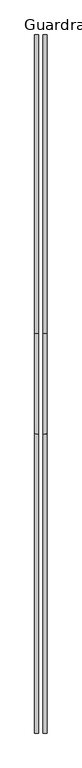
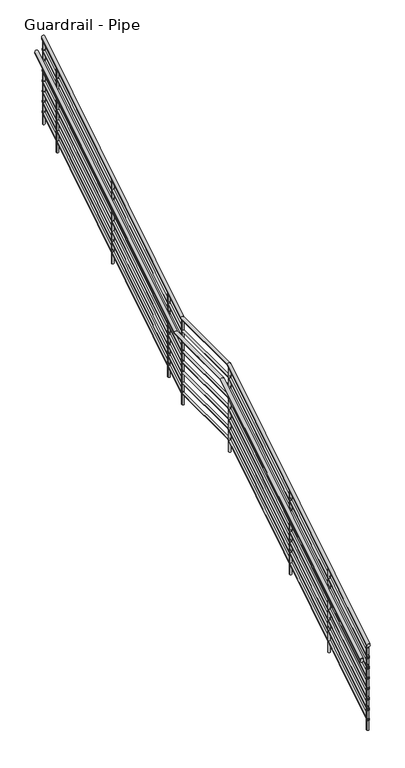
"""IFC4 building model written with IfcOpenShell, lengths in millimetres: railing geometry, Guardrail - Pipe."""

import ifcopenshell
import ifcopenshell.guid

model = None  # the IFC model being written
_history = None  # IfcOwnerHistory: only IFC2X3 demands one
_inside = {}  # id of a spatial element -> (the spatial element, [elements in it])
_under = {}  # id of a project, library or spatial element -> (it, [spatial elements below it])
_declared = {}  # id of a project -> (the project, [libraries it declares])
_typed = {}  # id of a type object -> (the type object, [elements of that type])
_made_of = {}  # id of a material, layer set ... -> (it, [elements and type objects made of it])


def new_model(schema):
    """Start an empty IFC model of exactly this schema.

    Asked for "IFC4X3", IfcOpenShell would pick the latest addendum, in which some entities
    have other attributes; the version numbers below select the first issue.
    IFC2X3 requires an IfcOwnerHistory on every rooted entity: one is made here for all.
    """
    global model, _history
    if schema == "IFC4X3":
        model = ifcopenshell.file(schema_version=(4, 3, 0, 0))
    else:
        model = ifcopenshell.file(schema=schema)
    _inside.clear()
    _under.clear()
    _declared.clear()
    _typed.clear()
    _made_of.clear()
    _history = None
    if model.schema == "IFC2X3":
        org = make("IfcOrganization", Name="unknown")
        user = make(
            "IfcPersonAndOrganization",
            ThePerson=make("IfcPerson", FamilyName="unknown"),
            TheOrganization=org,
        )
        app = make(
            "IfcApplication",
            ApplicationDeveloper=org,
            Version="unknown",
            ApplicationFullName="unknown",
            ApplicationIdentifier="unknown",
        )
        _history = make(
            "IfcOwnerHistory",
            OwningUser=user,
            OwningApplication=app,
            ChangeAction="ADDED",
            CreationDate=0,
        )
    return model


def make(cls, **values):
    """One entity of the class cls with the attributes given. An attribute that is None is left unset."""
    return model.create_entity(
        cls, **{name: value for name, value in values.items() if value is not None}
    )


def rooted(cls, **values):
    """An entity with a GlobalId (a new one), such as an element, a storey or a relation."""
    return make(cls, GlobalId=ifcopenshell.guid.new(), OwnerHistory=_history, **values)


def si_unit(unit_type, name, prefix=None):
    """IfcSIUnit, for example si_unit("LENGTHUNIT", "METRE", prefix="MILLI")."""
    return make("IfcSIUnit", UnitType=unit_type, Prefix=prefix, Name=name)


def assignment(units):
    """IfcUnitAssignment: the units of a project."""
    return None if units is None else make("IfcUnitAssignment", Units=units)


def point(xyz):
    """IfcCartesianPoint."""
    return None if xyz is None else make("IfcCartesianPoint", Coordinates=xyz)


def direction(xyz):
    """IfcDirection."""
    return None if xyz is None else make("IfcDirection", DirectionRatios=xyz)


def frame(location, z_axis=None, x_axis=None):
    """IfcAxis2Placement3D, a coordinate frame: its origin and axes. An axis left out is left unset."""
    return make(
        "IfcAxis2Placement3D",
        Location=point(location),
        Axis=direction(z_axis),
        RefDirection=direction(x_axis),
    )


def frame_2d(location, x_axis=None):
    """IfcAxis2Placement2D, a coordinate frame in the plane: its origin and x axis."""
    return make(
        "IfcAxis2Placement2D", Location=point(location), RefDirection=direction(x_axis)
    )


def origin():
    """The frame at (0, 0, 0) with its axes left unset."""
    return frame((0.0, 0.0, 0.0))


def place(relative_to, where):
    """IfcLocalPlacement: puts the frame where relative to a parent placement (None: the world)."""
    return make(
        "IfcLocalPlacement", PlacementRelTo=relative_to, RelativePlacement=where
    )


def context(
    kind, dimensions, precision=None, world=None, true_north=None, identifier=None
):
    """IfcGeometricRepresentationContext, for example the 3D "Model" context."""
    return make(
        "IfcGeometricRepresentationContext",
        ContextIdentifier=identifier,
        ContextType=kind,
        CoordinateSpaceDimension=dimensions,
        Precision=precision,
        WorldCoordinateSystem=world,
        TrueNorth=true_north,
    )


def project(units=None, contexts=None):
    """IfcProject with its units and contexts."""
    return rooted(
        "IfcProject",
        Name="project",
        RepresentationContexts=contexts,
        UnitsInContext=assignment(units),
    )


def spatial(cls, under=None, at=None, **own):
    """A site, building, storey or space (cls), placed at a placement, below another one or the project."""
    s = rooted(cls, ObjectPlacement=at, **own)
    if under is not None:
        _under.setdefault(under.id(), (under, []))[1].append(s)
    return s


def circle_curve(where, radius):
    """IfcCircle in the frame where."""
    return make("IfcCircle", Position=where, Radius=radius)


def ellipse_curve(where, semi_axis1, semi_axis2):
    """IfcEllipse in the frame where."""
    return make(
        "IfcEllipse", Position=where, SemiAxis1=semi_axis1, SemiAxis2=semi_axis2
    )


def trimmed(basis, trim1, trim2, sense, master):
    """IfcTrimmedCurve: the piece of a basis curve between two trims."""
    return make(
        "IfcTrimmedCurve",
        BasisCurve=basis,
        Trim1=trim1,
        Trim2=trim2,
        SenseAgreement=sense,
        MasterRepresentation=master,
    )


def segment(curve, same_sense, transition):
    """IfcCompositeCurveSegment."""
    return make(
        "IfcCompositeCurveSegment",
        Transition=transition,
        SameSense=same_sense,
        ParentCurve=curve,
    )


def composite_curve(segments, self_intersect=None):
    """IfcCompositeCurve: segments joined end to end."""
    return make("IfcCompositeCurve", Segments=segments, SelfIntersect=self_intersect)


def outline(outer, holes=None, kind="AREA"):
    """IfcArbitraryClosedProfileDef: a profile drawn as a closed curve; with holes, ...WithVoids."""
    if holes is None:
        return make("IfcArbitraryClosedProfileDef", ProfileType=kind, OuterCurve=outer)
    return make(
        "IfcArbitraryProfileDefWithVoids",
        ProfileType=kind,
        OuterCurve=outer,
        InnerCurves=holes,
    )


def extrude(swept, where, along, depth):
    """IfcExtrudedAreaSolid: the profile swept, set in the frame where, extruded along a direction by depth."""
    return make(
        "IfcExtrudedAreaSolid",
        SweptArea=swept,
        Position=where,
        ExtrudedDirection=direction(along),
        Depth=depth,
    )


def shape(context_of_items, identifier, shape_type, items):
    """IfcShapeRepresentation: the items that make up one representation, for example the "Body"."""
    return make(
        "IfcShapeRepresentation",
        ContextOfItems=context_of_items,
        RepresentationIdentifier=identifier,
        RepresentationType=shape_type,
        Items=items,
    )


def source(mapping_origin, context_of_items, identifier, shape_type, items):
    """IfcRepresentationMap: a shape defined once, which mapped items show again and again."""
    return make(
        "IfcRepresentationMap",
        MappingOrigin=mapping_origin,
        MappedRepresentation=shape(context_of_items, identifier, shape_type, items),
    )


def transform(
    local_origin,
    x_axis=None,
    y_axis=None,
    z_axis=None,
    scale=None,
    scale2=None,
    scale3=None,
    uniform=True,
):
    """IfcCartesianTransformationOperator3D, or its non-uniform kind. x_axis, y_axis, z_axis: its Axis1, 2, 3."""
    if uniform:
        return make(
            "IfcCartesianTransformationOperator3D",
            Axis1=direction(x_axis),
            Axis2=direction(y_axis),
            LocalOrigin=point(local_origin),
            Scale=scale,
            Axis3=direction(z_axis),
        )
    return make(
        "IfcCartesianTransformationOperator3DnonUniform",
        Axis1=direction(x_axis),
        Axis2=direction(y_axis),
        LocalOrigin=point(local_origin),
        Scale=scale,
        Axis3=direction(z_axis),
        Scale2=scale2,
        Scale3=scale3,
    )


def mapped(mapping_source, mapping_target):
    """IfcMappedItem: shows the shape of a source again, moved by a transform."""
    return make(
        "IfcMappedItem", MappingSource=mapping_source, MappingTarget=mapping_target
    )


def made_of(thing, what):
    """Note that an element or type object is made of a material, layer set ...; save() writes the relation."""
    if what is not None:
        _made_of.setdefault(what.id(), (what, []))[1].append(thing)
    return thing


def element(
    cls,
    number,
    at=None,
    inside=None,
    cuts=None,
    type_object=None,
    material=None,
    context=None,
    identifier="Body",
    shape_type=None,
    held_by="IfcProductDefinitionShape",
    body=None,
    shapes=None,
    **own,
):
    """One element of the class cls, such as IfcWall. Its Tag is "e" and its number.

    at: its placement. inside: the storey or other place that contains it. cuts: it is an
    opening in that element (IfcRelVoidsElement). A single representation is given by context,
    identifier, shape_type and body (its items); several are given by shapes. held_by: the class
    of the entity that holds the representations. save() writes the other relations.
    """
    e = rooted(cls, Tag="e%d" % number, ObjectPlacement=at, **own)
    if body is not None:
        shapes = [shape(context, identifier, shape_type, body)]
    if shapes is not None:
        e.Representation = make(held_by, Representations=shapes)
    if inside is not None:
        _inside.setdefault(inside.id(), (inside, []))[1].append(e)
    if cuts is not None:
        rooted(
            "IfcRelVoidsElement", RelatingBuildingElement=cuts, RelatedOpeningElement=e
        )
    if type_object is not None:
        _typed.setdefault(type_object.id(), (type_object, []))[1].append(e)
    return made_of(e, material)


def aggregate(whole, parts):
    """IfcRelAggregates: a whole, such as a stair, and the parts it consists of."""
    return rooted("IfcRelAggregates", RelatingObject=whole, RelatedObjects=parts)


def save(model, path):
    """Write the relations noted so far, then the file.

    IfcRelAggregates (storeys below a building ...), IfcRelContainedInSpatialStructure (elements
    in a storey), IfcRelDefinesByType, IfcRelAssociatesMaterial and IfcRelDeclares: one each for
    every whole, place, type object, material and project.
    """
    for whole, parts in _under.values():
        aggregate(whole, parts)
    for where, things in _inside.values():
        rooted(
            "IfcRelContainedInSpatialStructure",
            RelatedElements=things,
            RelatingStructure=where,
        )
    for kind, things in _typed.values():
        rooted("IfcRelDefinesByType", RelatedObjects=things, RelatingType=kind)
    for what, things in _made_of.values():
        rooted("IfcRelAssociatesMaterial", RelatedObjects=things, RelatingMaterial=what)
    for by, libraries in _declared.values():
        rooted("IfcRelDeclares", RelatingContext=by, RelatedDefinitions=libraries)
    model.write(path)


def plane_surface(at):
    """IfcPlane: the flat surface through the origin of the frame at, square to its z axis."""
    return make("IfcPlane", Position=at)


def cylinder_surface(at, radius):
    """IfcCylindricalSurface: all points at the distance radius from the z axis of the frame at."""
    return make("IfcCylindricalSurface", Position=at, Radius=radius)


def advanced_brep(points, edges, surfaces, faces):
    """IfcAdvancedBrep: a solid bounded by faces that lie on surfaces and meet in shared edges.

    An edge is (start, end): straight between two places in points (the first is 0);
    or (start, end, curve); or (start, end, curve, False) where it runs against its curve.
    A face is (place in surfaces, loops), or (place, loops, False) where it looks against
    its surface's normal. A loop lists edges by number (the first is 1), with a minus sign
    where the edge is run from its end to its start. The first loop is the outer one.
    """
    corners = [point(p) for p in points]
    vertices = [make("IfcVertexPoint", VertexGeometry=c) for c in corners]
    made = []
    for start, end, *more in edges:
        made.append(
            make(
                "IfcEdgeCurve",
                EdgeStart=vertices[start],
                EdgeEnd=vertices[end],
                EdgeGeometry=more[0] if more else make("IfcPolyline", Points=[corners[start], corners[end]]),
                SameSense=more[1] if len(more) > 1 else True,
            )
        )
    hull = []
    for where, loops, *sense in faces:
        bounds = []
        for j, loop in enumerate(loops):
            ring = [make("IfcOrientedEdge", EdgeElement=made[abs(k) - 1], Orientation=k > 0) for k in loop]
            bounds.append(
                make(
                    "IfcFaceOuterBound" if j == 0 else "IfcFaceBound",
                    Bound=make("IfcEdgeLoop", EdgeList=ring),
                    Orientation=True,
                )
            )
        hull.append(make("IfcAdvancedFace", Bounds=bounds, FaceSurface=surfaces[where], SameSense=sense[0] if sense else True))
    return make("IfcAdvancedBrep", Outer=make("IfcClosedShell", CfsFaces=hull))


def guardrail_pipe_3cf99dae(model_context):
    return source(origin(), model_context, "Body", "SolidModel", [
        advanced_brep(
        [(-2773.0069983, -3668.290357, 1218.5231361), (-2811.1069983, -3668.290357, 1218.5231361), (-2773.0069983, -868.8389295, 2963.6357143), (-2811.1069983, -868.8389295, 2963.6357143), (-2773.0069983, 70.9610705, 2963.6357143), (-2811.1069983, 70.9610705, 2963.6357143), (-2773.0069983, 2859.509643, 4701.9517075), (-2811.1069983, 2859.509643, 4701.9517075)],
        [
            (0, 1, ellipse_curve(frame((-2792.0569983, -3668.290357, 1218.5231361), z_axis=(0.0, -1.0, 0.0), x_axis=(0.0, 0.0, -1.0)), 22.4482925, 19.05)),
            (1, 0, ellipse_curve(frame((-2792.0569983, -3668.290357, 1218.5231361), z_axis=(0.0, -1.0, 0.0), x_axis=(0.0, 0.0, -1.0)), 22.4482925, 19.05)),
            (0, 2),
            (2, 3, ellipse_curve(frame((-2792.0569983, -868.8389295, 2963.6357143), z_axis=(0.0, -0.9614096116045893, -0.2751209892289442), x_axis=(0.0, 0.27512098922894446, -0.9614096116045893)), 19.8146552, 19.05)),
            (3, 1),
            (3, 2, ellipse_curve(frame((-2792.0569983, -868.8389295, 2963.6357143), z_axis=(0.0, -0.9614096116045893, -0.2751209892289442), x_axis=(0.0, 0.27512098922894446, -0.9614096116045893)), 19.8146552, 19.05)),
            (2, 4),
            (4, 5, ellipse_curve(frame((-2792.0569983, 70.9610705, 2963.6357143), z_axis=(0.0, -0.9614096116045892, -0.2751209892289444), x_axis=(0.0, -0.2751209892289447, 0.9614096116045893)), 19.8146552, 19.05)),
            (5, 3),
            (5, 4, ellipse_curve(frame((-2792.0569983, 70.9610705, 2963.6357143), z_axis=(0.0, -0.9614096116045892, -0.2751209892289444), x_axis=(0.0, -0.2751209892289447, 0.9614096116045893)), 19.8146552, 19.05)),
            (6, 7, ellipse_curve(frame((-2792.0569983, 2859.509643, 4701.9517075), z_axis=(0.0, 1.0, 0.0), x_axis=(0.0, 0.0, -1.0)), 22.4482925, 19.05)),
            (7, 6, ellipse_curve(frame((-2792.0569983, 2859.509643, 4701.9517075), z_axis=(0.0, 1.0, 0.0), x_axis=(0.0, 0.0, -1.0)), 22.4482925, 19.05)),
            (4, 6),
            (7, 5),
        ],
        [
            plane_surface(frame((-2792.0569983, -3668.290357, 1240.9714286), z_axis=(0.0, -1.0, 0.0), x_axis=(0.0, 0.0, 1.0))),
            cylinder_surface(frame((-2792.0569983, -3658.212756, 1224.805277), z_axis=(0.0, -0.8486168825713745, -0.5290079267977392), x_axis=(-1.0, 0.0, 0.0)), 19.05),
            cylinder_surface(frame((-2792.0569983, -874.290357, 2963.6357143), z_axis=(0.0, -1.0, 0.0), x_axis=(-1.0, 0.0, 0.0)), 19.05),
            plane_surface(frame((-2792.0569983, 2859.509643, 4724.4), z_axis=(0.0, 1.0, 0.0), x_axis=(0.0, 0.0, 1.0))),
            cylinder_surface(frame((-2792.0569983, 75.587244, 2966.5195627), z_axis=(0.0, -0.8486168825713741, -0.5290079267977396), x_axis=(-1.0, 0.0, 0.0)), 19.05),
        ],
        [
            (0, [[1, 2]]),
            (1, [[-1, 3, 4, 5]]),
            (1, [[-2, -5, 6, -3]]),
            (2, [[-4, 7, 8, 9]]),
            (2, [[-6, -9, 10, -7]]),
            (3, [[11, 12]]),
            (4, [[-8, 13, -12, 14]]),
            (4, [[-10, -14, -11, -13]]),
        ],
    ),
        advanced_brep(
        [(-2779.3569983, -3668.290357, 1073.6059002), (-2804.7569983, -3668.290357, 1073.6059002), (-2779.3569983, -870.656072, 2817.5857143), (-2804.7569983, -870.656072, 2817.5857143), (-2779.3569983, 69.143928, 2817.5857143), (-2804.7569983, 69.143928, 2817.5857143), (-2779.3569983, 2859.509643, 4557.0344717), (-2804.7569983, 2859.509643, 4557.0344717)],
        [
            (0, 1, ellipse_curve(frame((-2792.0569983, -3668.290357, 1073.6059002), z_axis=(0.0, -1.0, 0.0), x_axis=(0.0, 0.0, -1.0)), 14.9655283, 12.7)),
            (1, 0, ellipse_curve(frame((-2792.0569983, -3668.290357, 1073.6059002), z_axis=(0.0, -1.0, 0.0), x_axis=(0.0, 0.0, -1.0)), 14.9655283, 12.7)),
            (0, 2),
            (2, 3, ellipse_curve(frame((-2792.0569983, -870.656072, 2817.5857143), z_axis=(0.0, -0.9614096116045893, -0.2751209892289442), x_axis=(0.0, 0.27512098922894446, -0.9614096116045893)), 13.2097702, 12.7)),
            (3, 1),
            (3, 2, ellipse_curve(frame((-2792.0569983, -870.656072, 2817.5857143), z_axis=(0.0, -0.9614096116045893, -0.2751209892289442), x_axis=(0.0, 0.27512098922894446, -0.9614096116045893)), 13.2097702, 12.7)),
            (2, 4),
            (4, 5, ellipse_curve(frame((-2792.0569983, 69.143928, 2817.5857143), z_axis=(0.0, -0.9614096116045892, -0.2751209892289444), x_axis=(0.0, -0.2751209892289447, 0.9614096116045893)), 13.2097702, 12.7)),
            (5, 3),
            (5, 4, ellipse_curve(frame((-2792.0569983, 69.143928, 2817.5857143), z_axis=(0.0, -0.9614096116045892, -0.2751209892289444), x_axis=(0.0, -0.2751209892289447, 0.9614096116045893)), 13.2097702, 12.7)),
            (6, 7, ellipse_curve(frame((-2792.0569983, 2859.509643, 4557.0344717), z_axis=(0.0, 1.0, 0.0), x_axis=(0.0, 0.0, -1.0)), 14.9655283, 12.7)),
            (7, 6, ellipse_curve(frame((-2792.0569983, 2859.509643, 4557.0344717), z_axis=(0.0, 1.0, 0.0), x_axis=(0.0, 0.0, -1.0)), 14.9655283, 12.7)),
            (4, 6),
            (7, 5),
        ],
        [
            plane_surface(frame((-2792.0569983, -3668.290357, 1088.5714286), z_axis=(0.0, -1.0, 0.0), x_axis=(0.0, 0.0, 1.0))),
            cylinder_surface(frame((-2792.0569983, -3661.5719564, 1077.7939942), z_axis=(0.0, -0.8486168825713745, -0.5290079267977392), x_axis=(-1.0, 0.0, 0.0)), 12.7),
            cylinder_surface(frame((-2792.0569983, -874.290357, 2817.5857143), z_axis=(0.0, -1.0, 0.0), x_axis=(-1.0, 0.0, 0.0)), 12.7),
            plane_surface(frame((-2792.0569983, 2859.509643, 4572.0), z_axis=(0.0, 1.0, 0.0), x_axis=(0.0, 0.0, 1.0))),
            cylinder_surface(frame((-2792.0569983, 72.2280436, 2819.5082799), z_axis=(0.0, -0.8486168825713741, -0.5290079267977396), x_axis=(-1.0, 0.0, 0.0)), 12.7),
        ],
        [
            (0, [[1, 2]]),
            (1, [[-1, 3, 4, 5]]),
            (1, [[-2, -5, 6, -3]]),
            (2, [[-4, 7, 8, 9]]),
            (2, [[-6, -9, 10, -7]]),
            (3, [[11, 12]]),
            (4, [[-8, 13, -12, 14]]),
            (4, [[-10, -14, -11, -13]]),
        ],
    ),
        advanced_brep(
        [(-2849.2069983, -3668.290357, 1066.1231361), (-2887.3069983, -3668.290357, 1066.1231361), (-2849.2069983, -868.8389295, 2811.2357143), (-2887.3069983, -868.8389295, 2811.2357143), (-2849.2069983, 70.9610705, 2811.2357143), (-2887.3069983, 70.9610705, 2811.2357143), (-2849.2069983, 2859.509643, 4549.5517075), (-2887.3069983, 2859.509643, 4549.5517075)],
        [
            (0, 1, ellipse_curve(frame((-2868.2569983, -3668.290357, 1066.1231361), z_axis=(0.0, -1.0, 0.0), x_axis=(0.0, 0.0, -1.0)), 22.4482925, 19.05)),
            (1, 0, ellipse_curve(frame((-2868.2569983, -3668.290357, 1066.1231361), z_axis=(0.0, -1.0, 0.0), x_axis=(0.0, 0.0, -1.0)), 22.4482925, 19.05)),
            (0, 2),
            (2, 3, ellipse_curve(frame((-2868.2569983, -868.8389295, 2811.2357143), z_axis=(0.0, -0.9614096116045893, -0.2751209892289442), x_axis=(0.0, 0.27512098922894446, -0.9614096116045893)), 19.8146552, 19.05)),
            (3, 1),
            (3, 2, ellipse_curve(frame((-2868.2569983, -868.8389295, 2811.2357143), z_axis=(0.0, -0.9614096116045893, -0.2751209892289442), x_axis=(0.0, 0.27512098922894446, -0.9614096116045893)), 19.8146552, 19.05)),
            (2, 4),
            (4, 5, ellipse_curve(frame((-2868.2569983, 70.9610705, 2811.2357143), z_axis=(0.0, -0.9614096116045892, -0.2751209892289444), x_axis=(0.0, -0.2751209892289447, 0.9614096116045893)), 19.8146552, 19.05)),
            (5, 3),
            (5, 4, ellipse_curve(frame((-2868.2569983, 70.9610705, 2811.2357143), z_axis=(0.0, -0.9614096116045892, -0.2751209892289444), x_axis=(0.0, -0.2751209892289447, 0.9614096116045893)), 19.8146552, 19.05)),
            (6, 7, ellipse_curve(frame((-2868.2569983, 2859.509643, 4549.5517075), z_axis=(0.0, 1.0, 0.0), x_axis=(0.0, 0.0, -1.0)), 22.4482925, 19.05)),
            (7, 6, ellipse_curve(frame((-2868.2569983, 2859.509643, 4549.5517075), z_axis=(0.0, 1.0, 0.0), x_axis=(0.0, 0.0, -1.0)), 22.4482925, 19.05)),
            (4, 6),
            (7, 5),
        ],
        [
            plane_surface(frame((-2868.2569983, -3668.290357, 1088.5714286), z_axis=(0.0, -1.0, 0.0), x_axis=(0.0, 0.0, 1.0))),
            cylinder_surface(frame((-2868.2569983, -3658.212756, 1072.405277), z_axis=(0.0, -0.8486168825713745, -0.5290079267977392), x_axis=(-1.0, 0.0, 0.0)), 19.05),
            cylinder_surface(frame((-2868.2569983, -874.290357, 2811.2357143), z_axis=(0.0, -1.0, 0.0), x_axis=(-1.0, 0.0, 0.0)), 19.05),
            plane_surface(frame((-2868.2569983, 2859.509643, 4572.0), z_axis=(0.0, 1.0, 0.0), x_axis=(0.0, 0.0, 1.0))),
            cylinder_surface(frame((-2868.2569983, 75.587244, 2814.1195627), z_axis=(0.0, -0.8486168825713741, -0.5290079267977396), x_axis=(-1.0, 0.0, 0.0)), 19.05),
        ],
        [
            (0, [[1, 2]]),
            (1, [[-1, 3, 4, 5]]),
            (1, [[-2, -5, 6, -3]]),
            (2, [[-4, 7, 8, 9]]),
            (2, [[-6, -9, 10, -7]]),
            (3, [[11, 12]]),
            (4, [[-8, 13, -12, 14]]),
            (4, [[-10, -14, -11, -13]]),
        ],
    ),
        advanced_brep(
        [(-2779.3569983, -3668.290357, 946.6059002), (-2804.7569983, -3668.290357, 946.6059002), (-2779.3569983, -870.656072, 2690.5857143), (-2804.7569983, -870.656072, 2690.5857143), (-2779.3569983, 69.143928, 2690.5857143), (-2804.7569983, 69.143928, 2690.5857143), (-2779.3569983, 2859.509643, 4430.0344717), (-2804.7569983, 2859.509643, 4430.0344717)],
        [
            (0, 1, ellipse_curve(frame((-2792.0569983, -3668.290357, 946.6059002), z_axis=(0.0, -1.0, 0.0), x_axis=(0.0, 0.0, -1.0)), 14.9655283, 12.7)),
            (1, 0, ellipse_curve(frame((-2792.0569983, -3668.290357, 946.6059002), z_axis=(0.0, -1.0, 0.0), x_axis=(0.0, 0.0, -1.0)), 14.9655283, 12.7)),
            (0, 2),
            (2, 3, ellipse_curve(frame((-2792.0569983, -870.656072, 2690.5857143), z_axis=(0.0, -0.9614096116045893, -0.2751209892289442), x_axis=(0.0, 0.27512098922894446, -0.9614096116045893)), 13.2097702, 12.7)),
            (3, 1),
            (3, 2, ellipse_curve(frame((-2792.0569983, -870.656072, 2690.5857143), z_axis=(0.0, -0.9614096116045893, -0.2751209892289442), x_axis=(0.0, 0.27512098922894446, -0.9614096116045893)), 13.2097702, 12.7)),
            (2, 4),
            (4, 5, ellipse_curve(frame((-2792.0569983, 69.143928, 2690.5857143), z_axis=(0.0, -0.9614096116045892, -0.2751209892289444), x_axis=(0.0, -0.2751209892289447, 0.9614096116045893)), 13.2097702, 12.7)),
            (5, 3),
            (5, 4, ellipse_curve(frame((-2792.0569983, 69.143928, 2690.5857143), z_axis=(0.0, -0.9614096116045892, -0.2751209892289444), x_axis=(0.0, -0.2751209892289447, 0.9614096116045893)), 13.2097702, 12.7)),
            (6, 7, ellipse_curve(frame((-2792.0569983, 2859.509643, 4430.0344717), z_axis=(0.0, 1.0, 0.0), x_axis=(0.0, 0.0, -1.0)), 14.9655283, 12.7)),
            (7, 6, ellipse_curve(frame((-2792.0569983, 2859.509643, 4430.0344717), z_axis=(0.0, 1.0, 0.0), x_axis=(0.0, 0.0, -1.0)), 14.9655283, 12.7)),
            (4, 6),
            (7, 5),
        ],
        [
            plane_surface(frame((-2792.0569983, -3668.290357, 961.5714286), z_axis=(0.0, -1.0, 0.0), x_axis=(0.0, 0.0, 1.0))),
            cylinder_surface(frame((-2792.0569983, -3661.5719564, 950.7939942), z_axis=(0.0, -0.8486168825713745, -0.5290079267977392), x_axis=(-1.0, 0.0, 0.0)), 12.7),
            cylinder_surface(frame((-2792.0569983, -874.290357, 2690.5857143), z_axis=(0.0, -1.0, 0.0), x_axis=(-1.0, 0.0, 0.0)), 12.7),
            plane_surface(frame((-2792.0569983, 2859.509643, 4445.0), z_axis=(0.0, 1.0, 0.0), x_axis=(0.0, 0.0, 1.0))),
            cylinder_surface(frame((-2792.0569983, 72.2280436, 2692.5082799), z_axis=(0.0, -0.8486168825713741, -0.5290079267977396), x_axis=(-1.0, 0.0, 0.0)), 12.7),
        ],
        [
            (0, [[1, 2]]),
            (1, [[-1, 3, 4, 5]]),
            (1, [[-2, -5, 6, -3]]),
            (2, [[-4, 7, 8, 9]]),
            (2, [[-6, -9, 10, -7]]),
            (3, [[11, 12]]),
            (4, [[-8, 13, -12, 14]]),
            (4, [[-10, -14, -11, -13]]),
        ],
    ),
        advanced_brep(
        [(-2779.3569983, -3668.290357, 819.6059002), (-2804.7569983, -3668.290357, 819.6059002), (-2779.3569983, -870.656072, 2563.5857143), (-2804.7569983, -870.656072, 2563.5857143), (-2779.3569983, 69.143928, 2563.5857143), (-2804.7569983, 69.143928, 2563.5857143), (-2779.3569983, 2859.509643, 4303.0344717), (-2804.7569983, 2859.509643, 4303.0344717)],
        [
            (0, 1, ellipse_curve(frame((-2792.0569983, -3668.290357, 819.6059002), z_axis=(0.0, -1.0, 0.0), x_axis=(0.0, 0.0, -1.0)), 14.9655283, 12.7)),
            (1, 0, ellipse_curve(frame((-2792.0569983, -3668.290357, 819.6059002), z_axis=(0.0, -1.0, 0.0), x_axis=(0.0, 0.0, -1.0)), 14.9655283, 12.7)),
            (0, 2),
            (2, 3, ellipse_curve(frame((-2792.0569983, -870.656072, 2563.5857143), z_axis=(0.0, -0.9614096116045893, -0.2751209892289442), x_axis=(0.0, 0.27512098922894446, -0.9614096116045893)), 13.2097702, 12.7)),
            (3, 1),
            (3, 2, ellipse_curve(frame((-2792.0569983, -870.656072, 2563.5857143), z_axis=(0.0, -0.9614096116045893, -0.2751209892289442), x_axis=(0.0, 0.27512098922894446, -0.9614096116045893)), 13.2097702, 12.7)),
            (2, 4),
            (4, 5, ellipse_curve(frame((-2792.0569983, 69.143928, 2563.5857143), z_axis=(0.0, -0.9614096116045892, -0.2751209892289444), x_axis=(0.0, -0.2751209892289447, 0.9614096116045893)), 13.2097702, 12.7)),
            (5, 3),
            (5, 4, ellipse_curve(frame((-2792.0569983, 69.143928, 2563.5857143), z_axis=(0.0, -0.9614096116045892, -0.2751209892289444), x_axis=(0.0, -0.2751209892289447, 0.9614096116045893)), 13.2097702, 12.7)),
            (6, 7, ellipse_curve(frame((-2792.0569983, 2859.509643, 4303.0344717), z_axis=(0.0, 1.0, 0.0), x_axis=(0.0, 0.0, -1.0)), 14.9655283, 12.7)),
            (7, 6, ellipse_curve(frame((-2792.0569983, 2859.509643, 4303.0344717), z_axis=(0.0, 1.0, 0.0), x_axis=(0.0, 0.0, -1.0)), 14.9655283, 12.7)),
            (4, 6),
            (7, 5),
        ],
        [
            plane_surface(frame((-2792.0569983, -3668.290357, 834.5714286), z_axis=(0.0, -1.0, 0.0), x_axis=(0.0, 0.0, 1.0))),
            cylinder_surface(frame((-2792.0569983, -3661.5719564, 823.7939942), z_axis=(0.0, -0.8486168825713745, -0.5290079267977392), x_axis=(-1.0, 0.0, 0.0)), 12.7),
            cylinder_surface(frame((-2792.0569983, -874.290357, 2563.5857143), z_axis=(0.0, -1.0, 0.0), x_axis=(-1.0, 0.0, 0.0)), 12.7),
            plane_surface(frame((-2792.0569983, 2859.509643, 4318.0), z_axis=(0.0, 1.0, 0.0), x_axis=(0.0, 0.0, 1.0))),
            cylinder_surface(frame((-2792.0569983, 72.2280436, 2565.5082799), z_axis=(0.0, -0.8486168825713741, -0.5290079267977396), x_axis=(-1.0, 0.0, 0.0)), 12.7),
        ],
        [
            (0, [[1, 2]]),
            (1, [[-1, 3, 4, 5]]),
            (1, [[-2, -5, 6, -3]]),
            (2, [[-4, 7, 8, 9]]),
            (2, [[-6, -9, 10, -7]]),
            (3, [[11, 12]]),
            (4, [[-8, 13, -12, 14]]),
            (4, [[-10, -14, -11, -13]]),
        ],
    ),
        advanced_brep(
        [(-2779.3569983, -3668.290357, 692.6059002), (-2804.7569983, -3668.290357, 692.6059002), (-2779.3569983, -870.656072, 2436.5857143), (-2804.7569983, -870.656072, 2436.5857143), (-2779.3569983, 69.143928, 2436.5857143), (-2804.7569983, 69.143928, 2436.5857143), (-2779.3569983, 2859.509643, 4176.0344717), (-2804.7569983, 2859.509643, 4176.0344717)],
        [
            (0, 1, ellipse_curve(frame((-2792.0569983, -3668.290357, 692.6059002), z_axis=(0.0, -1.0, 0.0), x_axis=(0.0, 0.0, -1.0)), 14.9655283, 12.7)),
            (1, 0, ellipse_curve(frame((-2792.0569983, -3668.290357, 692.6059002), z_axis=(0.0, -1.0, 0.0), x_axis=(0.0, 0.0, -1.0)), 14.9655283, 12.7)),
            (0, 2),
            (2, 3, ellipse_curve(frame((-2792.0569983, -870.656072, 2436.5857143), z_axis=(0.0, -0.9614096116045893, -0.2751209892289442), x_axis=(0.0, 0.27512098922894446, -0.9614096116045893)), 13.2097702, 12.7)),
            (3, 1),
            (3, 2, ellipse_curve(frame((-2792.0569983, -870.656072, 2436.5857143), z_axis=(0.0, -0.9614096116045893, -0.2751209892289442), x_axis=(0.0, 0.27512098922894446, -0.9614096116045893)), 13.2097702, 12.7)),
            (2, 4),
            (4, 5, ellipse_curve(frame((-2792.0569983, 69.143928, 2436.5857143), z_axis=(0.0, -0.9614096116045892, -0.2751209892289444), x_axis=(0.0, -0.2751209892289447, 0.9614096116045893)), 13.2097702, 12.7)),
            (5, 3),
            (5, 4, ellipse_curve(frame((-2792.0569983, 69.143928, 2436.5857143), z_axis=(0.0, -0.9614096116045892, -0.2751209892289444), x_axis=(0.0, -0.2751209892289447, 0.9614096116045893)), 13.2097702, 12.7)),
            (6, 7, ellipse_curve(frame((-2792.0569983, 2859.509643, 4176.0344717), z_axis=(0.0, 1.0, 0.0), x_axis=(0.0, 0.0, -1.0)), 14.9655283, 12.7)),
            (7, 6, ellipse_curve(frame((-2792.0569983, 2859.509643, 4176.0344717), z_axis=(0.0, 1.0, 0.0), x_axis=(0.0, 0.0, -1.0)), 14.9655283, 12.7)),
            (4, 6),
            (7, 5),
        ],
        [
            plane_surface(frame((-2792.0569983, -3668.290357, 707.5714286), z_axis=(0.0, -1.0, 0.0), x_axis=(0.0, 0.0, 1.0))),
            cylinder_surface(frame((-2792.0569983, -3661.5719564, 696.7939942), z_axis=(0.0, -0.8486168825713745, -0.5290079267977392), x_axis=(-1.0, 0.0, 0.0)), 12.7),
            cylinder_surface(frame((-2792.0569983, -874.290357, 2436.5857143), z_axis=(0.0, -1.0, 0.0), x_axis=(-1.0, 0.0, 0.0)), 12.7),
            plane_surface(frame((-2792.0569983, 2859.509643, 4191.0), z_axis=(0.0, 1.0, 0.0), x_axis=(0.0, 0.0, 1.0))),
            cylinder_surface(frame((-2792.0569983, 72.2280436, 2438.5082799), z_axis=(0.0, -0.8486168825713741, -0.5290079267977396), x_axis=(-1.0, 0.0, 0.0)), 12.7),
        ],
        [
            (0, [[1, 2]]),
            (1, [[-1, 3, 4, 5]]),
            (1, [[-2, -5, 6, -3]]),
            (2, [[-4, 7, 8, 9]]),
            (2, [[-6, -9, 10, -7]]),
            (3, [[11, 12]]),
            (4, [[-8, 13, -12, 14]]),
            (4, [[-10, -14, -11, -13]]),
        ],
    ),
        advanced_brep(
        [(-2779.3569983, -3668.290357, 565.6059002), (-2804.7569983, -3668.290357, 565.6059002), (-2779.3569983, -870.656072, 2309.5857143), (-2804.7569983, -870.656072, 2309.5857143), (-2779.3569983, 69.143928, 2309.5857143), (-2804.7569983, 69.143928, 2309.5857143), (-2779.3569983, 2859.509643, 4049.0344717), (-2804.7569983, 2859.509643, 4049.0344717)],
        [
            (0, 1, ellipse_curve(frame((-2792.0569983, -3668.290357, 565.6059002), z_axis=(0.0, -1.0, 0.0), x_axis=(0.0, 0.0, -1.0)), 14.9655283, 12.7)),
            (1, 0, ellipse_curve(frame((-2792.0569983, -3668.290357, 565.6059002), z_axis=(0.0, -1.0, 0.0), x_axis=(0.0, 0.0, -1.0)), 14.9655283, 12.7)),
            (0, 2),
            (2, 3, ellipse_curve(frame((-2792.0569983, -870.656072, 2309.5857143), z_axis=(0.0, -0.9614096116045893, -0.2751209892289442), x_axis=(0.0, 0.27512098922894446, -0.9614096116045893)), 13.2097702, 12.7)),
            (3, 1),
            (3, 2, ellipse_curve(frame((-2792.0569983, -870.656072, 2309.5857143), z_axis=(0.0, -0.9614096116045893, -0.2751209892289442), x_axis=(0.0, 0.27512098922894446, -0.9614096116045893)), 13.2097702, 12.7)),
            (2, 4),
            (4, 5, ellipse_curve(frame((-2792.0569983, 69.143928, 2309.5857143), z_axis=(0.0, -0.9614096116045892, -0.2751209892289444), x_axis=(0.0, -0.2751209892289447, 0.9614096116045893)), 13.2097702, 12.7)),
            (5, 3),
            (5, 4, ellipse_curve(frame((-2792.0569983, 69.143928, 2309.5857143), z_axis=(0.0, -0.9614096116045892, -0.2751209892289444), x_axis=(0.0, -0.2751209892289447, 0.9614096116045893)), 13.2097702, 12.7)),
            (6, 7, ellipse_curve(frame((-2792.0569983, 2859.509643, 4049.0344717), z_axis=(0.0, 1.0, 0.0), x_axis=(0.0, 0.0, -1.0)), 14.9655283, 12.7)),
            (7, 6, ellipse_curve(frame((-2792.0569983, 2859.509643, 4049.0344717), z_axis=(0.0, 1.0, 0.0), x_axis=(0.0, 0.0, -1.0)), 14.9655283, 12.7)),
            (4, 6),
            (7, 5),
        ],
        [
            plane_surface(frame((-2792.0569983, -3668.290357, 580.5714286), z_axis=(0.0, -1.0, 0.0), x_axis=(0.0, 0.0, 1.0))),
            cylinder_surface(frame((-2792.0569983, -3661.5719564, 569.7939942), z_axis=(0.0, -0.8486168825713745, -0.5290079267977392), x_axis=(-1.0, 0.0, 0.0)), 12.7),
            cylinder_surface(frame((-2792.0569983, -874.290357, 2309.5857143), z_axis=(0.0, -1.0, 0.0), x_axis=(-1.0, 0.0, 0.0)), 12.7),
            plane_surface(frame((-2792.0569983, 2859.509643, 4064.0), z_axis=(0.0, 1.0, 0.0), x_axis=(0.0, 0.0, 1.0))),
            cylinder_surface(frame((-2792.0569983, 72.2280436, 2311.5082799), z_axis=(0.0, -0.8486168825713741, -0.5290079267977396), x_axis=(-1.0, 0.0, 0.0)), 12.7),
        ],
        [
            (0, [[1, 2]]),
            (1, [[-1, 3, 4, 5]]),
            (1, [[-2, -5, 6, -3]]),
            (2, [[-4, 7, 8, 9]]),
            (2, [[-6, -9, 10, -7]]),
            (3, [[11, 12]]),
            (4, [[-8, 13, -12, 14]]),
            (4, [[-10, -14, -11, -13]]),
        ],
    ),
        advanced_brep(
        [(-2779.3569983, -3668.290357, 438.6059002), (-2804.7569983, -3668.290357, 438.6059002), (-2779.3569983, -870.656072, 2182.5857143), (-2804.7569983, -870.656072, 2182.5857143), (-2779.3569983, 69.143928, 2182.5857143), (-2804.7569983, 69.143928, 2182.5857143), (-2779.3569983, 2859.509643, 3922.0344717), (-2804.7569983, 2859.509643, 3922.0344717)],
        [
            (0, 1, ellipse_curve(frame((-2792.0569983, -3668.290357, 438.6059002), z_axis=(0.0, -1.0, 0.0), x_axis=(0.0, 0.0, -1.0)), 14.9655283, 12.7)),
            (1, 0, ellipse_curve(frame((-2792.0569983, -3668.290357, 438.6059002), z_axis=(0.0, -1.0, 0.0), x_axis=(0.0, 0.0, -1.0)), 14.9655283, 12.7)),
            (0, 2),
            (2, 3, ellipse_curve(frame((-2792.0569983, -870.656072, 2182.5857143), z_axis=(0.0, -0.9614096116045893, -0.2751209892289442), x_axis=(0.0, 0.27512098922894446, -0.9614096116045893)), 13.2097702, 12.7)),
            (3, 1),
            (3, 2, ellipse_curve(frame((-2792.0569983, -870.656072, 2182.5857143), z_axis=(0.0, -0.9614096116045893, -0.2751209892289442), x_axis=(0.0, 0.27512098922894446, -0.9614096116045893)), 13.2097702, 12.7)),
            (2, 4),
            (4, 5, ellipse_curve(frame((-2792.0569983, 69.143928, 2182.5857143), z_axis=(0.0, -0.9614096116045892, -0.2751209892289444), x_axis=(0.0, -0.2751209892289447, 0.9614096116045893)), 13.2097702, 12.7)),
            (5, 3),
            (5, 4, ellipse_curve(frame((-2792.0569983, 69.143928, 2182.5857143), z_axis=(0.0, -0.9614096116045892, -0.2751209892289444), x_axis=(0.0, -0.2751209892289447, 0.9614096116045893)), 13.2097702, 12.7)),
            (6, 7, ellipse_curve(frame((-2792.0569983, 2859.509643, 3922.0344717), z_axis=(0.0, 1.0, 0.0), x_axis=(0.0, 0.0, -1.0)), 14.9655283, 12.7)),
            (7, 6, ellipse_curve(frame((-2792.0569983, 2859.509643, 3922.0344717), z_axis=(0.0, 1.0, 0.0), x_axis=(0.0, 0.0, -1.0)), 14.9655283, 12.7)),
            (4, 6),
            (7, 5),
        ],
        [
            plane_surface(frame((-2792.0569983, -3668.290357, 453.5714286), z_axis=(0.0, -1.0, 0.0), x_axis=(0.0, 0.0, 1.0))),
            cylinder_surface(frame((-2792.0569983, -3661.5719564, 442.7939942), z_axis=(0.0, -0.8486168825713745, -0.5290079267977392), x_axis=(-1.0, 0.0, 0.0)), 12.7),
            cylinder_surface(frame((-2792.0569983, -874.290357, 2182.5857143), z_axis=(0.0, -1.0, 0.0), x_axis=(-1.0, 0.0, 0.0)), 12.7),
            plane_surface(frame((-2792.0569983, 2859.509643, 3937.0), z_axis=(0.0, 1.0, 0.0), x_axis=(0.0, 0.0, 1.0))),
            cylinder_surface(frame((-2792.0569983, 72.2280436, 2184.5082799), z_axis=(0.0, -0.8486168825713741, -0.5290079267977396), x_axis=(-1.0, 0.0, 0.0)), 12.7),
        ],
        [
            (0, [[1, 2]]),
            (1, [[-1, 3, 4, 5]]),
            (1, [[-2, -5, 6, -3]]),
            (2, [[-4, 7, 8, 9]]),
            (2, [[-6, -9, 10, -7]]),
            (3, [[11, 12]]),
            (4, [[-8, 13, -12, 14]]),
            (4, [[-10, -14, -11, -13]]),
        ],
    ),
        advanced_brep(
        [(-2779.3569983, -3668.290357, 311.6059002), (-2804.7569983, -3668.290357, 311.6059002), (-2779.3569983, -870.656072, 2055.5857143), (-2804.7569983, -870.656072, 2055.5857143), (-2779.3569983, 69.143928, 2055.5857143), (-2804.7569983, 69.143928, 2055.5857143), (-2779.3569983, 2859.509643, 3795.0344717), (-2804.7569983, 2859.509643, 3795.0344717)],
        [
            (0, 1, ellipse_curve(frame((-2792.0569983, -3668.290357, 311.6059002), z_axis=(0.0, -1.0, 0.0), x_axis=(0.0, 0.0, -1.0)), 14.9655283, 12.7)),
            (1, 0, ellipse_curve(frame((-2792.0569983, -3668.290357, 311.6059002), z_axis=(0.0, -1.0, 0.0), x_axis=(0.0, 0.0, -1.0)), 14.9655283, 12.7)),
            (0, 2),
            (2, 3, ellipse_curve(frame((-2792.0569983, -870.656072, 2055.5857143), z_axis=(0.0, -0.9614096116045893, -0.2751209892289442), x_axis=(0.0, 0.27512098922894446, -0.9614096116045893)), 13.2097702, 12.7)),
            (3, 1),
            (3, 2, ellipse_curve(frame((-2792.0569983, -870.656072, 2055.5857143), z_axis=(0.0, -0.9614096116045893, -0.2751209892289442), x_axis=(0.0, 0.27512098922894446, -0.9614096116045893)), 13.2097702, 12.7)),
            (2, 4),
            (4, 5, ellipse_curve(frame((-2792.0569983, 69.143928, 2055.5857143), z_axis=(0.0, -0.9614096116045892, -0.2751209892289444), x_axis=(0.0, -0.2751209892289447, 0.9614096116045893)), 13.2097702, 12.7)),
            (5, 3),
            (5, 4, ellipse_curve(frame((-2792.0569983, 69.143928, 2055.5857143), z_axis=(0.0, -0.9614096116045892, -0.2751209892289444), x_axis=(0.0, -0.2751209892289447, 0.9614096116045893)), 13.2097702, 12.7)),
            (6, 7, ellipse_curve(frame((-2792.0569983, 2859.509643, 3795.0344717), z_axis=(0.0, 1.0, 0.0), x_axis=(0.0, 0.0, -1.0)), 14.9655283, 12.7)),
            (7, 6, ellipse_curve(frame((-2792.0569983, 2859.509643, 3795.0344717), z_axis=(0.0, 1.0, 0.0), x_axis=(0.0, 0.0, -1.0)), 14.9655283, 12.7)),
            (4, 6),
            (7, 5),
        ],
        [
            plane_surface(frame((-2792.0569983, -3668.290357, 326.5714286), z_axis=(0.0, -1.0, 0.0), x_axis=(0.0, 0.0, 1.0))),
            cylinder_surface(frame((-2792.0569983, -3661.5719564, 315.7939942), z_axis=(0.0, -0.8486168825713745, -0.5290079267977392), x_axis=(-1.0, 0.0, 0.0)), 12.7),
            cylinder_surface(frame((-2792.0569983, -874.290357, 2055.5857143), z_axis=(0.0, -1.0, 0.0), x_axis=(-1.0, 0.0, 0.0)), 12.7),
            plane_surface(frame((-2792.0569983, 2859.509643, 3810.0), z_axis=(0.0, 1.0, 0.0), x_axis=(0.0, 0.0, 1.0))),
            cylinder_surface(frame((-2792.0569983, 72.2280436, 2057.5082799), z_axis=(0.0, -0.8486168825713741, -0.5290079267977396), x_axis=(-1.0, 0.0, 0.0)), 12.7),
        ],
        [
            (0, [[1, 2]]),
            (1, [[-1, 3, 4, 5]]),
            (1, [[-2, -5, 6, -3]]),
            (2, [[-4, 7, 8, 9]]),
            (2, [[-6, -9, 10, -7]]),
            (3, [[11, 12]]),
            (4, [[-8, 13, -12, 14]]),
            (4, [[-10, -14, -11, -13]]),
        ],
    ),
        advanced_brep(
        [(-2779.3569983, 2847.1280585, 3649.8816097), (-2804.7569983, 2847.1280585, 3649.8816097), (-2804.7569983, 2847.1280585, 4671.7850247), (-2779.3569983, 2847.1280585, 4671.7850247)],
        [
            (0, 1, circle_curve(frame((-2792.0569983, 2847.1280585, 3649.8816097), z_axis=(0.0, 0.0, -1.0), x_axis=(-1.0, 0.0, 0.0)), 12.7)),
            (1, 0, circle_curve(frame((-2792.0569983, 2847.1280585, 3649.8816097), z_axis=(0.0, 0.0, -1.0), x_axis=(-1.0, 0.0, 0.0)), 12.7)),
            (1, 2),
            (2, 3, ellipse_curve(frame((-2792.0569983, 2847.1280585, 4671.7850247), z_axis=(0.0, 0.5290079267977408, -0.8486168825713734), x_axis=(0.0, 0.8486168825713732, 0.5290079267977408)), 14.9655283, 12.7)),
            (3, 0),
            (3, 2, ellipse_curve(frame((-2792.0569983, 2847.1280585, 4671.7850247), z_axis=(0.0, 0.5290079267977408, -0.8486168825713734), x_axis=(0.0, 0.8486168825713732, 0.5290079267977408)), 14.9655283, 12.7)),
        ],
        [
            plane_surface(frame((-2804.7569983, 2847.1280585, 3649.8816097), z_axis=(0.0, 0.0, -1.0), x_axis=(0.0, 1.0, 0.0))),
            cylinder_surface(frame((-2792.0569983, 2847.1280585, 3649.8816097), z_axis=(0.0, 0.0, 1.0), x_axis=(-1.0, 0.0, 0.0)), 12.7),
            plane_surface(frame((-2839.2828282, 2882.0530585, 4693.5564532), z_axis=(0.0, -0.5290079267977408, 0.8486168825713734), x_axis=(1.0, 0.0, 0.0))),
        ],
        [
            (0, [[1, 2]]),
            (1, [[-2, 3, 4, 5]]),
            (1, [[-1, -5, 6, -3]]),
            (2, [[-4, -6]]),
        ],
    ),
        advanced_brep(
        [(-2779.3569983, 2567.7280585, 3475.7101811), (-2804.7569983, 2567.7280585, 3475.7101811), (-2804.7569983, 2567.7280585, 4497.6135961), (-2779.3569983, 2567.7280585, 4497.6135961)],
        [
            (0, 1, circle_curve(frame((-2792.0569983, 2567.7280585, 3475.7101811), z_axis=(0.0, 0.0, -1.0), x_axis=(-1.0, 0.0, 0.0)), 12.7)),
            (1, 0, circle_curve(frame((-2792.0569983, 2567.7280585, 3475.7101811), z_axis=(0.0, 0.0, -1.0), x_axis=(-1.0, 0.0, 0.0)), 12.7)),
            (1, 2),
            (2, 3, ellipse_curve(frame((-2792.0569983, 2567.7280585, 4497.6135961), z_axis=(0.0, 0.5290079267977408, -0.8486168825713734), x_axis=(0.0, 0.8486168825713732, 0.5290079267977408)), 14.9655283, 12.7)),
            (3, 0),
            (3, 2, ellipse_curve(frame((-2792.0569983, 2567.7280585, 4497.6135961), z_axis=(0.0, 0.5290079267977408, -0.8486168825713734), x_axis=(0.0, 0.8486168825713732, 0.5290079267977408)), 14.9655283, 12.7)),
        ],
        [
            plane_surface(frame((-2804.7569983, 2567.7280585, 3475.7101811), z_axis=(0.0, 0.0, -1.0), x_axis=(0.0, 1.0, 0.0))),
            cylinder_surface(frame((-2792.0569983, 2567.7280585, 3475.7101811), z_axis=(0.0, 0.0, 1.0), x_axis=(-1.0, 0.0, 0.0)), 12.7),
            plane_surface(frame((-2839.2828282, 2602.6530585, 4519.3850247), z_axis=(0.0, -0.5290079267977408, 0.8486168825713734), x_axis=(1.0, 0.0, 0.0))),
        ],
        [
            (0, [[1, 2]]),
            (1, [[-2, 3, 4, 5]]),
            (1, [[-1, -5, 6, -3]]),
            (2, [[-4, -6]]),
        ],
    ),
        advanced_brep(
        [(-2779.3569983, 1462.509643, 2786.7428571), (-2804.7569983, 1462.509643, 2786.7428571), (-2804.7569983, 1462.509643, 3808.6462721), (-2779.3569983, 1462.509643, 3808.6462721)],
        [
            (0, 1, circle_curve(frame((-2792.0569983, 1462.509643, 2786.7428571), z_axis=(0.0, 0.0, -1.0), x_axis=(-1.0, 0.0, 0.0)), 12.7)),
            (1, 0, circle_curve(frame((-2792.0569983, 1462.509643, 2786.7428571), z_axis=(0.0, 0.0, -1.0), x_axis=(-1.0, 0.0, 0.0)), 12.7)),
            (1, 2),
            (2, 3, ellipse_curve(frame((-2792.0569983, 1462.509643, 3808.6462721), z_axis=(0.0, 0.5290079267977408, -0.8486168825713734), x_axis=(0.0, 0.8486168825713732, 0.5290079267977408)), 14.9655283, 12.7)),
            (3, 0),
            (3, 2, ellipse_curve(frame((-2792.0569983, 1462.509643, 3808.6462721), z_axis=(0.0, 0.5290079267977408, -0.8486168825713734), x_axis=(0.0, 0.8486168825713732, 0.5290079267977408)), 14.9655283, 12.7)),
        ],
        [
            plane_surface(frame((-2804.7569983, 1462.509643, 2786.7428571), z_axis=(0.0, 0.0, -1.0), x_axis=(0.0, 1.0, 0.0))),
            cylinder_surface(frame((-2792.0569983, 1462.509643, 2786.7428571), z_axis=(0.0, 0.0, 1.0), x_axis=(-1.0, 0.0, 0.0)), 12.7),
            plane_surface(frame((-2839.2828282, 1497.434643, 3830.4177007), z_axis=(0.0, -0.5290079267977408, 0.8486168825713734), x_axis=(1.0, 0.0, 0.0))),
        ],
        [
            (0, [[1, 2]]),
            (1, [[-2, 3, 4, 5]]),
            (1, [[-1, -5, 6, -3]]),
            (2, [[-4, -6]]),
        ],
    ),
        advanced_brep(
        [(-2779.3569983, 332.5280585, 2082.3387525), (-2804.7569983, 332.5280585, 2082.3387525), (-2804.7569983, 332.5280585, 3104.2421675), (-2779.3569983, 332.5280585, 3104.2421675)],
        [
            (0, 1, circle_curve(frame((-2792.0569983, 332.5280585, 2082.3387525), z_axis=(0.0, 0.0, -1.0), x_axis=(-1.0, 0.0, 0.0)), 12.7)),
            (1, 0, circle_curve(frame((-2792.0569983, 332.5280585, 2082.3387525), z_axis=(0.0, 0.0, -1.0), x_axis=(-1.0, 0.0, 0.0)), 12.7)),
            (1, 2),
            (2, 3, ellipse_curve(frame((-2792.0569983, 332.5280585, 3104.2421675), z_axis=(0.0, 0.5290079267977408, -0.8486168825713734), x_axis=(0.0, 0.8486168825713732, 0.5290079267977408)), 14.9655283, 12.7)),
            (3, 0),
            (3, 2, ellipse_curve(frame((-2792.0569983, 332.5280585, 3104.2421675), z_axis=(0.0, 0.5290079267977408, -0.8486168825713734), x_axis=(0.0, 0.8486168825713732, 0.5290079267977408)), 14.9655283, 12.7)),
        ],
        [
            plane_surface(frame((-2804.7569983, 332.5280585, 2082.3387525), z_axis=(0.0, 0.0, -1.0), x_axis=(0.0, 1.0, 0.0))),
            cylinder_surface(frame((-2792.0569983, 332.5280585, 2082.3387525), z_axis=(0.0, 0.0, 1.0), x_axis=(-1.0, 0.0, 0.0)), 12.7),
            plane_surface(frame((-2839.2828282, 367.4530585, 3126.0135961), z_axis=(0.0, -0.5290079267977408, 0.8486168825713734), x_axis=(1.0, 0.0, 0.0))),
        ],
        [
            (0, [[1, 2]]),
            (1, [[-2, 3, 4, 5]]),
            (1, [[-1, -5, 6, -3]]),
            (2, [[-4, -6]]),
        ],
    ),
        extrude(outline(composite_curve([segment(trimmed(circle_curve(frame_2d((-2792.0569983, 53.1280585)), 12.7), [point((-2779.3569983, 53.1280585))], [point((-2804.7569983, 53.1280585))], False, "CARTESIAN"), True, "CONTINUOUS"), segment(trimmed(circle_curve(frame_2d((-2792.0569983, 53.1280585)), 12.7), [point((-2804.7569983, 53.1280585))], [point((-2779.3569983, 53.1280585))], False, "CARTESIAN"), True, "CONTINUOUS")], self_intersect=False)), frame((0.0, 0.0, 1915.8857143), z_axis=(0.0, 0.0, 1.0), x_axis=(1.0, 0.0, 0.0)), (0.0, 0.0, 1.0), 1028.7),
        advanced_brep(
        [(-2779.3569983, -886.6719415, 1908.167324), (-2804.7569983, -886.6719415, 1908.167324), (-2804.7569983, -886.6719415, 2930.070739), (-2779.3569983, -886.6719415, 2930.070739)],
        [
            (0, 1, circle_curve(frame((-2792.0569983, -886.6719415, 1908.167324), z_axis=(0.0, 0.0, -1.0), x_axis=(-1.0, 0.0, 0.0)), 12.7)),
            (1, 0, circle_curve(frame((-2792.0569983, -886.6719415, 1908.167324), z_axis=(0.0, 0.0, -1.0), x_axis=(-1.0, 0.0, 0.0)), 12.7)),
            (1, 2),
            (2, 3, ellipse_curve(frame((-2792.0569983, -886.6719415, 2930.070739), z_axis=(0.0, 0.5290079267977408, -0.8486168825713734), x_axis=(0.0, 0.8486168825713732, 0.5290079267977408)), 14.9655283, 12.7)),
            (3, 0),
            (3, 2, ellipse_curve(frame((-2792.0569983, -886.6719415, 2930.070739), z_axis=(0.0, 0.5290079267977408, -0.8486168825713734), x_axis=(0.0, 0.8486168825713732, 0.5290079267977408)), 14.9655283, 12.7)),
        ],
        [
            plane_surface(frame((-2804.7569983, -886.6719415, 1908.167324), z_axis=(0.0, 0.0, -1.0), x_axis=(0.0, 1.0, 0.0))),
            cylinder_surface(frame((-2792.0569983, -886.6719415, 1908.167324), z_axis=(0.0, 0.0, 1.0), x_axis=(-1.0, 0.0, 0.0)), 12.7),
            plane_surface(frame((-2839.2828282, -851.7469415, 2951.8421675), z_axis=(0.0, -0.5290079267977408, 0.8486168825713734), x_axis=(1.0, 0.0, 0.0))),
        ],
        [
            (0, [[1, 2]]),
            (1, [[-2, 3, 4, 5]]),
            (1, [[-1, -5, 6, -3]]),
            (2, [[-4, -6]]),
        ],
    ),
        advanced_brep(
        [(-2779.3569983, -2105.8719415, 1148.1465447), (-2804.7569983, -2105.8719415, 1148.1465447), (-2804.7569983, -2105.8719415, 2170.0499597), (-2779.3569983, -2105.8719415, 2170.0499597)],
        [
            (0, 1, circle_curve(frame((-2792.0569983, -2105.8719415, 1148.1465447), z_axis=(0.0, 0.0, -1.0), x_axis=(-1.0, 0.0, 0.0)), 12.7)),
            (1, 0, circle_curve(frame((-2792.0569983, -2105.8719415, 1148.1465447), z_axis=(0.0, 0.0, -1.0), x_axis=(-1.0, 0.0, 0.0)), 12.7)),
            (1, 2),
            (2, 3, ellipse_curve(frame((-2792.0569983, -2105.8719415, 2170.0499597), z_axis=(0.0, 0.5290079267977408, -0.8486168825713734), x_axis=(0.0, 0.8486168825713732, 0.5290079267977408)), 14.9655283, 12.7)),
            (3, 0),
            (3, 2, ellipse_curve(frame((-2792.0569983, -2105.8719415, 2170.0499597), z_axis=(0.0, 0.5290079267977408, -0.8486168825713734), x_axis=(0.0, 0.8486168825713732, 0.5290079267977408)), 14.9655283, 12.7)),
        ],
        [
            plane_surface(frame((-2804.7569983, -2105.8719415, 1148.1465447), z_axis=(0.0, 0.0, -1.0), x_axis=(0.0, 1.0, 0.0))),
            cylinder_surface(frame((-2792.0569983, -2105.8719415, 1148.1465447), z_axis=(0.0, 0.0, 1.0), x_axis=(-1.0, 0.0, 0.0)), 12.7),
            plane_surface(frame((-2839.2828282, -2070.9469415, 2191.8213883), z_axis=(0.0, -0.5290079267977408, 0.8486168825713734), x_axis=(1.0, 0.0, 0.0))),
        ],
        [
            (0, [[1, 2]]),
            (1, [[-2, 3, 4, 5]]),
            (1, [[-1, -5, 6, -3]]),
            (2, [[-4, -6]]),
        ],
    ),
        advanced_brep(
        [(-2779.3569983, -2880.890357, 665.0181818), (-2804.7569983, -2880.890357, 665.0181818), (-2804.7569983, -2880.890357, 1686.9215968), (-2779.3569983, -2880.890357, 1686.9215968)],
        [
            (0, 1, circle_curve(frame((-2792.0569983, -2880.890357, 665.0181818), z_axis=(0.0, 0.0, -1.0), x_axis=(-1.0, 0.0, 0.0)), 12.7)),
            (1, 0, circle_curve(frame((-2792.0569983, -2880.890357, 665.0181818), z_axis=(0.0, 0.0, -1.0), x_axis=(-1.0, 0.0, 0.0)), 12.7)),
            (1, 2),
            (2, 3, ellipse_curve(frame((-2792.0569983, -2880.890357, 1686.9215968), z_axis=(0.0, 0.5290079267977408, -0.8486168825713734), x_axis=(0.0, 0.8486168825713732, 0.5290079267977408)), 14.9655283, 12.7)),
            (3, 0),
            (3, 2, ellipse_curve(frame((-2792.0569983, -2880.890357, 1686.9215968), z_axis=(0.0, 0.5290079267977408, -0.8486168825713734), x_axis=(0.0, 0.8486168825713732, 0.5290079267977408)), 14.9655283, 12.7)),
        ],
        [
            plane_surface(frame((-2804.7569983, -2880.890357, 665.0181818), z_axis=(0.0, 0.0, -1.0), x_axis=(0.0, 1.0, 0.0))),
            cylinder_surface(frame((-2792.0569983, -2880.890357, 665.0181818), z_axis=(0.0, 0.0, 1.0), x_axis=(-1.0, 0.0, 0.0)), 12.7),
            plane_surface(frame((-2839.2828282, -2845.965357, 1708.6930254), z_axis=(0.0, -0.5290079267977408, 0.8486168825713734), x_axis=(1.0, 0.0, 0.0))),
        ],
        [
            (0, [[1, 2]]),
            (1, [[-2, 3, 4, 5]]),
            (1, [[-1, -5, 6, -3]]),
            (2, [[-4, -6]]),
        ],
    ),
        advanced_brep(
        [(-2779.3569983, -3655.9087726, 181.8898189), (-2804.7569983, -3655.9087726, 181.8898189), (-2804.7569983, -3655.9087726, 1203.7932339), (-2779.3569983, -3655.9087726, 1203.7932339)],
        [
            (0, 1, circle_curve(frame((-2792.0569983, -3655.9087726, 181.8898189), z_axis=(0.0, 0.0, -1.0), x_axis=(-1.0, 0.0, 0.0)), 12.7)),
            (1, 0, circle_curve(frame((-2792.0569983, -3655.9087726, 181.8898189), z_axis=(0.0, 0.0, -1.0), x_axis=(-1.0, 0.0, 0.0)), 12.7)),
            (1, 2),
            (2, 3, ellipse_curve(frame((-2792.0569983, -3655.9087726, 1203.7932339), z_axis=(0.0, 0.5290079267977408, -0.8486168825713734), x_axis=(0.0, 0.8486168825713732, 0.5290079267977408)), 14.9655283, 12.7)),
            (3, 0),
            (3, 2, ellipse_curve(frame((-2792.0569983, -3655.9087726, 1203.7932339), z_axis=(0.0, 0.5290079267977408, -0.8486168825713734), x_axis=(0.0, 0.8486168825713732, 0.5290079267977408)), 14.9655283, 12.7)),
        ],
        [
            plane_surface(frame((-2804.7569983, -3655.9087726, 181.8898189), z_axis=(0.0, 0.0, -1.0), x_axis=(0.0, 1.0, 0.0))),
            cylinder_surface(frame((-2792.0569983, -3655.9087726, 181.8898189), z_axis=(0.0, 0.0, 1.0), x_axis=(-1.0, 0.0, 0.0)), 12.7),
            plane_surface(frame((-2839.2828282, -3620.9837726, 1225.5646625), z_axis=(0.0, -0.5290079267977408, 0.8486168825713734), x_axis=(1.0, 0.0, 0.0))),
        ],
        [
            (0, [[1, 2]]),
            (1, [[-2, 3, 4, 5]]),
            (1, [[-1, -5, 6, -3]]),
            (2, [[-4, -6]]),
        ],
    ),
    ])


if __name__ == "__main__":
    model = new_model("IFC4")
    model_context = context("Model", 3, world=origin())
    ifc_project = project(units=[si_unit("LENGTHUNIT", "METRE", prefix="MILLI")], contexts=[model_context])
    site = spatial("IfcSite", under=ifc_project)
    building = spatial("IfcBuilding", under=site)
    placement = place(None, origin())
    guardrail_pipe_shape = guardrail_pipe_3cf99dae(model_context)
    element("IfcRailing", 1, ObjectType="Guardrail - Pipe", at=placement, inside=building, context=model_context, shape_type="MappedRepresentation", body=[
        mapped(guardrail_pipe_shape, transform((0.0, 0.0, 0.0), x_axis=(1.0, 0.0, 0.0), y_axis=(0.0, 1.0, 0.0), z_axis=(0.0, 0.0, 1.0))),
    ])
    save(model, "model.ifc")
